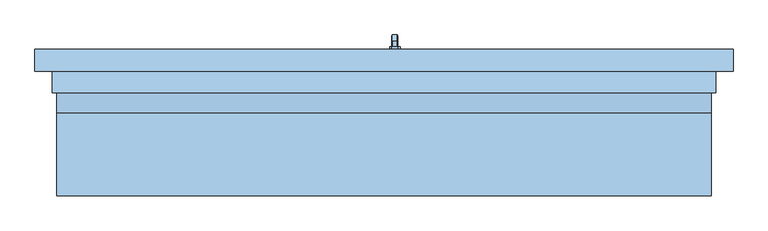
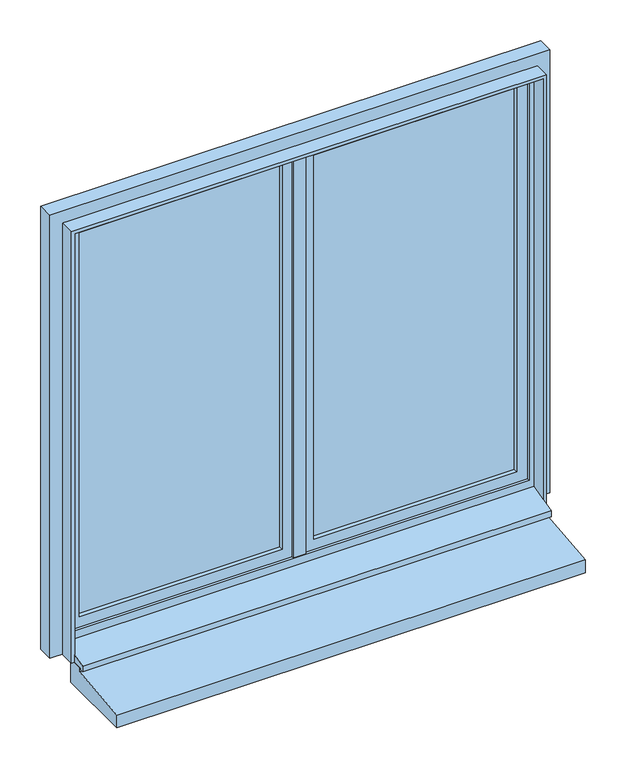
"""IFC4 building model written with IfcOpenShell, lengths in millimetres: window geometry, 2 Vantaux - Droits : 1.50m x 1.45m - Appui Béton."""

from ifc_helpers import new_model, si_unit, frame, origin, place, context, project, spatial, polyline, outline, extrude, faceted_brep, source, transform, mapped, element, save


def window_9a843f60(model_context):
    return source(origin(), model_context, "Body", "SolidModel", [
        faceted_brep([(30.6460097, 166.0, 1422.0339292), (19.3539903, 166.0, 1422.0339292), (17.9660708, 166.0, 1420.6460097), (17.9660708, 166.0, 1409.3323012), (19.3323012, 166.0, 1407.9660708), (30.6676988, 166.0, 1407.9660708), (32.0339292, 166.0, 1409.3323012), (32.0339292, 166.0, 1420.6460097), (32.0339292, 178.3386538, 1420.6460097), (30.6460097, 178.9135489, 1422.0339292), (32.0339292, 173.6523623, 1409.3323012), (32.0339292, 180.3323012, 1402.6523623), (32.0339292, 180.3323012, 1320.0), (32.0339292, 191.6460097, 1320.0), (32.0339292, 191.6460097, 1407.3386538), (30.6676988, 173.0864511, 1407.9660708), (19.3323012, 173.0864511, 1407.9660708), (17.9660708, 173.6523623, 1409.3323012), (17.9660708, 178.3386538, 1420.6460097), (17.9660708, 191.6460097, 1407.3386538), (17.9660708, 191.6460097, 1320.0), (17.9660708, 180.3323012, 1320.0), (17.9660708, 180.3323012, 1402.6523623), (19.3539903, 178.9135489, 1422.0339292), (30.6460097, 193.0339292, 1407.9135489), (30.6676988, 178.9660708, 1402.0864511), (19.3323012, 178.9660708, 1402.0864511), (19.3539903, 193.0339292, 1407.9135489), (30.6460097, 193.0339292, 1320.0), (30.6676988, 178.9660708, 1320.0), (19.3323012, 178.9660708, 1320.0), (19.3539903, 193.0339292, 1320.0)], [[[0, 1, 2, 3, 4, 5, 6, 7]], [[7, 8, 9, 0]], [[6, 10, 11, 12, 13, 14, 8, 7]], [[5, 15, 10, 6]], [[4, 16, 15, 5]], [[3, 17, 16, 4]], [[2, 18, 19, 20, 21, 22, 17, 3]], [[1, 23, 18, 2]], [[0, 9, 23, 1]], [[8, 14, 24, 9]], [[15, 25, 11, 10]], [[16, 26, 25, 15]], [[17, 22, 26, 16]], [[23, 27, 19, 18]], [[9, 24, 27, 23]], [[28, 13, 12, 29, 30, 21, 20, 31]], [[14, 13, 28, 24]], [[25, 29, 12, 11]], [[26, 30, 29, 25]], [[22, 21, 30, 26]], [[27, 31, 20, 19]], [[24, 28, 31, 27]]]),
        extrude(outline(polyline([(1440.0, 32.0), (1440.0, 18.0), (1435.0, 13.0), (1365.0, 13.0), (1360.0, 18.0), (1360.0, 32.0), (1365.0, 37.0), (1435.0, 37.0), (1440.0, 32.0)])), frame((0.0, 160.0, 0.0), z_axis=(0.0, 1.0, 0.0), x_axis=(0.0, 0.0, 1.0)), (0.0, 0.0, 1.0), 6.0),
        extrude(outline(polyline([(80.0, 800.0), (80.0, 720.0), (-175.0, 720.0), (-175.0, 763.4536318), (30.0, 785.0), (30.0, 800.0), (80.0, 800.0)])), frame((-750.0, 0.0, 0.0), z_axis=(1.0, 0.0, 0.0), x_axis=(0.0, 1.0, 0.0)), (0.0, 0.0, 1.0), 1500.0),
        extrude(outline(polyline([(850.0, -750.0), (850.0, 0.0), (2250.0, 0.0), (2250.0, -750.0), (850.0, -750.0)]), holes=[polyline([(900.0, -50.0), (900.0, -700.0), (2200.0, -700.0), (2200.0, -50.0), (900.0, -50.0)])]), frame((0.0, 120.0, 0.0), z_axis=(0.0, 1.0, 0.0), x_axis=(0.0, 0.0, 1.0)), (0.0, 0.0, 1.0), 40.0),
        extrude(outline(polyline([(50.0, 134.0), (50.0, 146.0), (700.0, 146.0), (700.0, 134.0), (50.0, 134.0)])), frame((0.0, 0.0, 900.0), z_axis=(0.0, 0.0, 1.0), x_axis=(1.0, 0.0, 0.0)), (0.0, 0.0, 1.0), 1300.0),
        extrude(outline(polyline([(-700.0, 134.0), (-700.0, 146.0), (-50.0, 146.0), (-50.0, 134.0), (-700.0, 134.0)])), frame((0.0, 0.0, 900.0), z_axis=(0.0, 0.0, 1.0), x_axis=(1.0, 0.0, 0.0)), (0.0, 0.0, 1.0), 1300.0),
        extrude(outline(polyline([(850.0, 0.0), (850.0, 750.0), (2250.0, 750.0), (2250.0, 0.0), (850.0, 0.0)]), holes=[polyline([(900.0, 700.0), (900.0, 50.0), (2200.0, 50.0), (2200.0, 700.0), (900.0, 700.0)])]), frame((0.0, 120.0, 0.0), z_axis=(0.0, 1.0, 0.0), x_axis=(0.0, 0.0, 1.0)), (0.0, 0.0, 1.0), 40.0),
        faceted_brep([(-800.0, 160.0, 800.0), (800.0, 160.0, 800.0), (800.0, 110.0, 800.0), (750.0, 110.0, 800.0), (750.0, 25.0, 800.0), (-750.0, 25.0, 800.0), (-750.0, 110.0, 800.0), (-800.0, 110.0, 800.0), (-800.0, 110.0, 2300.0), (-800.0, 160.0, 2300.0), (-750.0, 110.0, 839.3761425), (750.0, 110.0, 839.3761425), (800.0, 110.0, 2300.0), (-735.0, 110.0, 2235.0), (735.0, 110.0, 2235.0), (735.0, 110.0, 865.0), (-735.0, 110.0, 865.0), (-750.0, 25.0, 795.0), (-750.0, 15.0, 795.0), (-750.0, 15.0, 813.9209692), (750.0, 25.0, 795.0), (750.0, 15.0, 813.9209692), (750.0, 15.0, 795.0), (800.0, 160.0, 2300.0), (750.0, 160.0, 2250.0), (-750.0, 160.0, 2250.0), (-750.0, 160.0, 850.0), (750.0, 160.0, 850.0), (-735.0, 120.0, 865.0), (-735.0, 120.0, 2235.0), (735.0, 120.0, 865.0), (735.0, 120.0, 2235.0), (750.0, 120.0, 2250.0), (750.0, 120.0, 850.0), (-750.0, 120.0, 850.0), (-750.0, 120.0, 2250.0)], [[[0, 1, 2, 3, 4, 5, 6, 7]], [[7, 8, 9, 0]], [[7, 6, 10, 11, 3, 2, 12, 8], [13, 14, 15, 16]], [[10, 6, 5, 17, 18, 19]], [[5, 4, 20, 17]], [[4, 3, 11, 21, 22, 20]], [[2, 1, 23, 12]], [[0, 9, 23, 1], [24, 25, 26, 27]], [[13, 16, 28, 29]], [[28, 16, 15, 30]], [[31, 30, 15, 14]], [[19, 21, 11, 10]], [[32, 33, 34, 35], [29, 28, 30, 31]], [[34, 26, 25, 35]], [[26, 34, 33, 27]], [[24, 27, 33, 32]], [[18, 22, 21, 19]], [[17, 20, 22, 18]], [[13, 29, 31, 14]], [[35, 25, 24, 32]], [[12, 23, 9, 8]]]),
        extrude(outline(polyline([(800.0, -750.0), (2250.0, -750.0), (2250.0, 750.0), (800.0, 750.0), (800.0, 760.0), (2260.0, 760.0), (2260.0, -760.0), (800.0, -760.0), (800.0, -750.0)])), frame((0.0, 60.0, 0.0), z_axis=(0.0, 1.0, 0.0), x_axis=(0.0, 0.0, 1.0)), (0.0, 0.0, 1.0), 50.0),
        extrude(outline(polyline([(20.0, 112.0), (-20.0, 112.0), (-20.0, 120.0), (20.0, 120.0), (20.0, 112.0)])), frame((0.0, 0.0, 865.0), z_axis=(0.0, 0.0, 1.0), x_axis=(1.0, 0.0, 0.0)), (0.0, 0.0, 1.0), 1370.0),
    ])


if __name__ == "__main__":
    model = new_model("IFC4")
    model_context = context("Model", 3, world=origin())
    ifc_project = project(units=[si_unit("LENGTHUNIT", "METRE", prefix="MILLI")], contexts=[model_context])
    site = spatial("IfcSite", under=ifc_project)
    building = spatial("IfcBuilding", under=site)
    placement = place(None, origin())
    window_shape = window_9a843f60(model_context)
    element("IfcWindow", 1, ObjectType="2 Vantaux - Droits : 1.50m x 1.45m - Appui Béton", at=placement, inside=building, context=model_context, shape_type="MappedRepresentation", body=[
        mapped(window_shape, transform((0.0, 0.0, 0.0), x_axis=(1.0, 0.0, 0.0), y_axis=(0.0, 1.0, 0.0), z_axis=(0.0, 0.0, 1.0))),
    ])
    save(model, "model.ifc")
